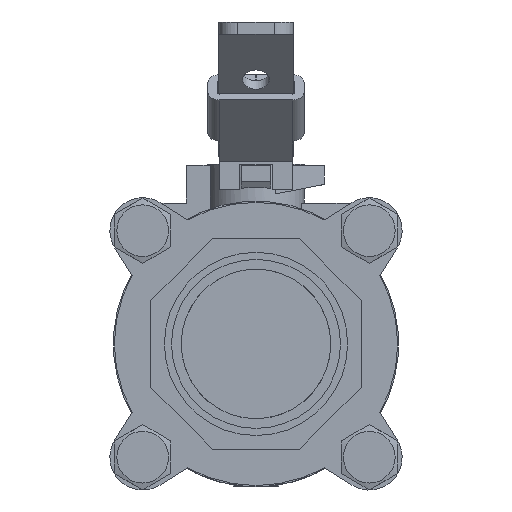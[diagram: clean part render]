
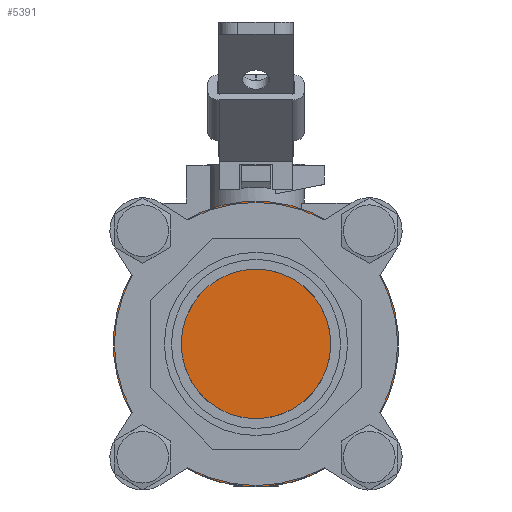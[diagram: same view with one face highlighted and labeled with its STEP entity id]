
A CAD part, left-side view. The second image highlights one B-rep face of the part: STEP entity #5391.
In plain terms, the highlighted planar face has unit normal (-1, 0, 0).
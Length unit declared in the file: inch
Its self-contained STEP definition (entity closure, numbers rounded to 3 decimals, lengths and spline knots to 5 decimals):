
#4881=CARTESIAN_POINT('',(1.37675,1.41198,1.24126));
#4882=VERTEX_POINT('',#4881);
#4889=CARTESIAN_POINT('',(1.37675,1.24105,1.41216));
#4890=VERTEX_POINT('',#4889);
#4891=CARTESIAN_POINT('',(1.37675,1.49161,1.49183));
#4892=DIRECTION('',(1.0,0.0,0.0));
#4893=DIRECTION('',(0.0,-1.0,0.0));
#4894=AXIS2_PLACEMENT_3D('',#4891,#4892,#4893);
#4895=CIRCLE('',#4894,0.26292);
#4896=EDGE_CURVE('',#4890,#4882,#4895,.T.);
#5007=CARTESIAN_POINT('',(1.37675,-1.24105,1.41216));
#5008=VERTEX_POINT('',#5007);
#5015=CARTESIAN_POINT('',(1.37675,-1.41198,1.24126));
#5016=VERTEX_POINT('',#5015);
#5017=CARTESIAN_POINT('',(1.37675,-1.49161,1.49183));
#5018=DIRECTION('',(1.0,0.0,0.0));
#5019=DIRECTION('',(0.0,1.0,0.0));
#5020=AXIS2_PLACEMENT_3D('',#5017,#5018,#5019);
#5021=CIRCLE('',#5020,0.26292);
#5022=EDGE_CURVE('',#5016,#5008,#5021,.T.);
#5133=CARTESIAN_POINT('',(1.37675,-1.41198,-1.24126));
#5134=VERTEX_POINT('',#5133);
#5141=CARTESIAN_POINT('',(1.37675,-1.24105,-1.41216));
#5142=VERTEX_POINT('',#5141);
#5143=CARTESIAN_POINT('',(1.37675,-1.49161,-1.49183));
#5144=DIRECTION('',(1.0,0.0,0.0));
#5145=DIRECTION('',(0.0,1.0,0.0));
#5146=AXIS2_PLACEMENT_3D('',#5143,#5144,#5145);
#5147=CIRCLE('',#5146,0.26292);
#5148=EDGE_CURVE('',#5142,#5134,#5147,.T.);
#5217=CARTESIAN_POINT('',(1.37675,1.24105,-1.41216));
#5218=VERTEX_POINT('',#5217);
#5225=CARTESIAN_POINT('',(1.37675,1.41198,-1.24126));
#5226=VERTEX_POINT('',#5225);
#5227=CARTESIAN_POINT('',(1.37675,1.49161,-1.49183));
#5228=DIRECTION('',(1.0,0.0,0.0));
#5229=DIRECTION('',(0.0,-1.0,0.0));
#5230=AXIS2_PLACEMENT_3D('',#5227,#5228,#5229);
#5231=CIRCLE('',#5230,0.26292);
#5232=EDGE_CURVE('',#5226,#5218,#5231,.T.);
#5352=CARTESIAN_POINT('',(1.37675,0.,0.0));
#5353=DIRECTION('',(1.0,0.0,0.0));
#5354=DIRECTION('',(0.0,0.0,-1.0));
#5355=AXIS2_PLACEMENT_3D('',#5352,#5353,#5354);
#5356=PLANE('',#5355);
#5357=ORIENTED_EDGE('',*,*,#4896,.T.);
#5358=CARTESIAN_POINT('',(1.37675,0.,0.0));
#5359=DIRECTION('',(1.0,0.0,0.0));
#5360=DIRECTION('',(0.0,1.0,0.0));
#5361=AXIS2_PLACEMENT_3D('',#5358,#5359,#5360);
#5362=CIRCLE('',#5361,1.88);
#5363=EDGE_CURVE('',#5226,#4882,#5362,.T.);
#5364=ORIENTED_EDGE('',*,*,#5363,.F.);
#5365=ORIENTED_EDGE('',*,*,#5232,.T.);
#5366=CARTESIAN_POINT('',(1.37675,0.,0.0));
#5367=DIRECTION('',(1.0,0.0,0.0));
#5368=DIRECTION('',(0.0,1.0,0.0));
#5369=AXIS2_PLACEMENT_3D('',#5366,#5367,#5368);
#5370=CIRCLE('',#5369,1.88);
#5371=EDGE_CURVE('',#5142,#5218,#5370,.T.);
#5372=ORIENTED_EDGE('',*,*,#5371,.F.);
#5373=ORIENTED_EDGE('',*,*,#5148,.T.);
#5374=CARTESIAN_POINT('',(1.37675,0.,0.0));
#5375=DIRECTION('',(1.0,0.0,0.0));
#5376=DIRECTION('',(0.0,1.0,0.0));
#5377=AXIS2_PLACEMENT_3D('',#5374,#5375,#5376);
#5378=CIRCLE('',#5377,1.88);
#5379=EDGE_CURVE('',#5016,#5134,#5378,.T.);
#5380=ORIENTED_EDGE('',*,*,#5379,.F.);
#5381=ORIENTED_EDGE('',*,*,#5022,.T.);
#5382=CARTESIAN_POINT('',(1.37675,0.,0.0));
#5383=DIRECTION('',(1.0,0.0,0.0));
#5384=DIRECTION('',(0.0,1.0,0.0));
#5385=AXIS2_PLACEMENT_3D('',#5382,#5383,#5384);
#5386=CIRCLE('',#5385,1.88);
#5387=EDGE_CURVE('',#4890,#5008,#5386,.T.);
#5388=ORIENTED_EDGE('',*,*,#5387,.F.);
#5389=EDGE_LOOP('',(#5357,#5364,#5365,#5372,#5373,#5380,#5381,#5388));
#5390=FACE_OUTER_BOUND('',#5389,.T.);
#5391=ADVANCED_FACE('',(#5390),#5356,.F.);
